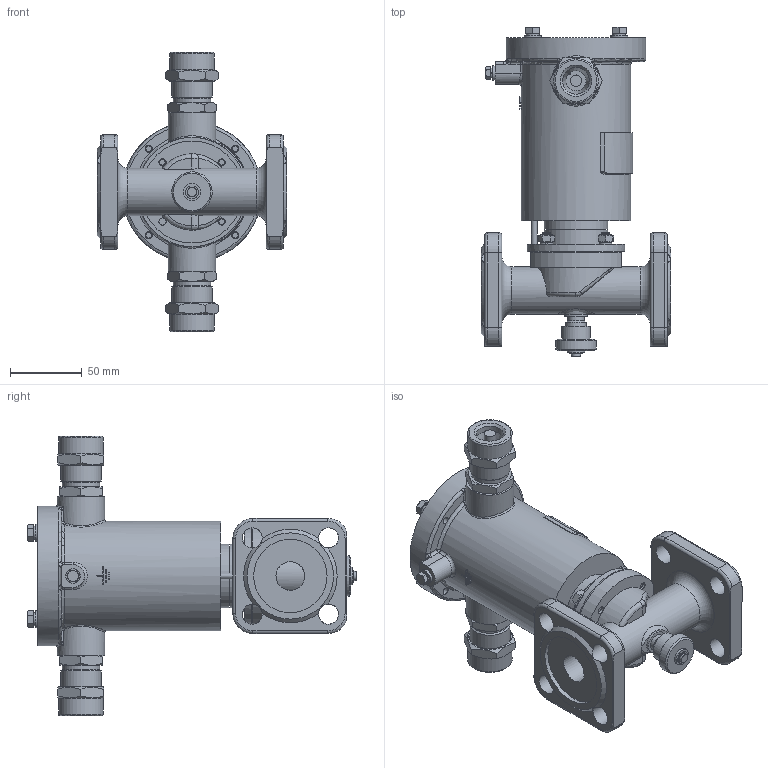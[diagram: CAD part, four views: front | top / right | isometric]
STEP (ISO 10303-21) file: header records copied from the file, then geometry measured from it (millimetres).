
FILE_DESCRIPTION(('STEP AP203'), '1');
FILE_NAME('ÑÅÍÑ DN20PN25.stp', '2018-09-19T08:35:12', ('Îðëîâ Å.Â.'), ('ÎÎÎ ÍÏÏ Ñåíñîð'), 'ASCON STEP Converter 1.3', 'Kompas 3D', '');
FILE_SCHEMA(('CONFIG_CONTROL_DESIGN','SUPPORT_RESOURCE_SCHEMA'));
Length unit declared in the file: millimetre
Products named in the file (1): 14
Bounding box: 132 x 228.7 x 194 mm (x, y, z)
Volume: 631186.7 mm3; surface area: 205354.3 mm2
Topology: 3 solids, 18 shells, 1947 faces, 5180 edges, 3372 vertices
Faces by surface type: cylinder 1008, plane 722, cone 126, torus 40, bspline 35, extrusion 16
Full cylindrical faces by diameter (mm): 2.459 x4, 4 x8, 4.134 x1, 4.5 x2, 4.917 x5, 5 x6, 5.1 x1, 6 x14, 6.3 x2, 6.4 x1, 6.5 x11, 8 x6, 10 x3, 11.5 x1, 12 x5, 12.376 x1, 13 x2, 14 x9, 15 x1, 16 x1, 18.632 x2, 20 x6, 20.5 x1, 22 x2, 22.376 x2, 22.5 x1, 23.5 x3, 24 x2, 24.5 x3, 25 x2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
Entity records: 76168 total; most frequent: CARTESIAN_POINT 26414, DIRECTION 10811, ORIENTED_EDGE 10336, EDGE_CURVE 5168, AXIS2_PLACEMENT_3D 4166, VERTEX_POINT 3372, VECTOR 2479, LINE 2463
